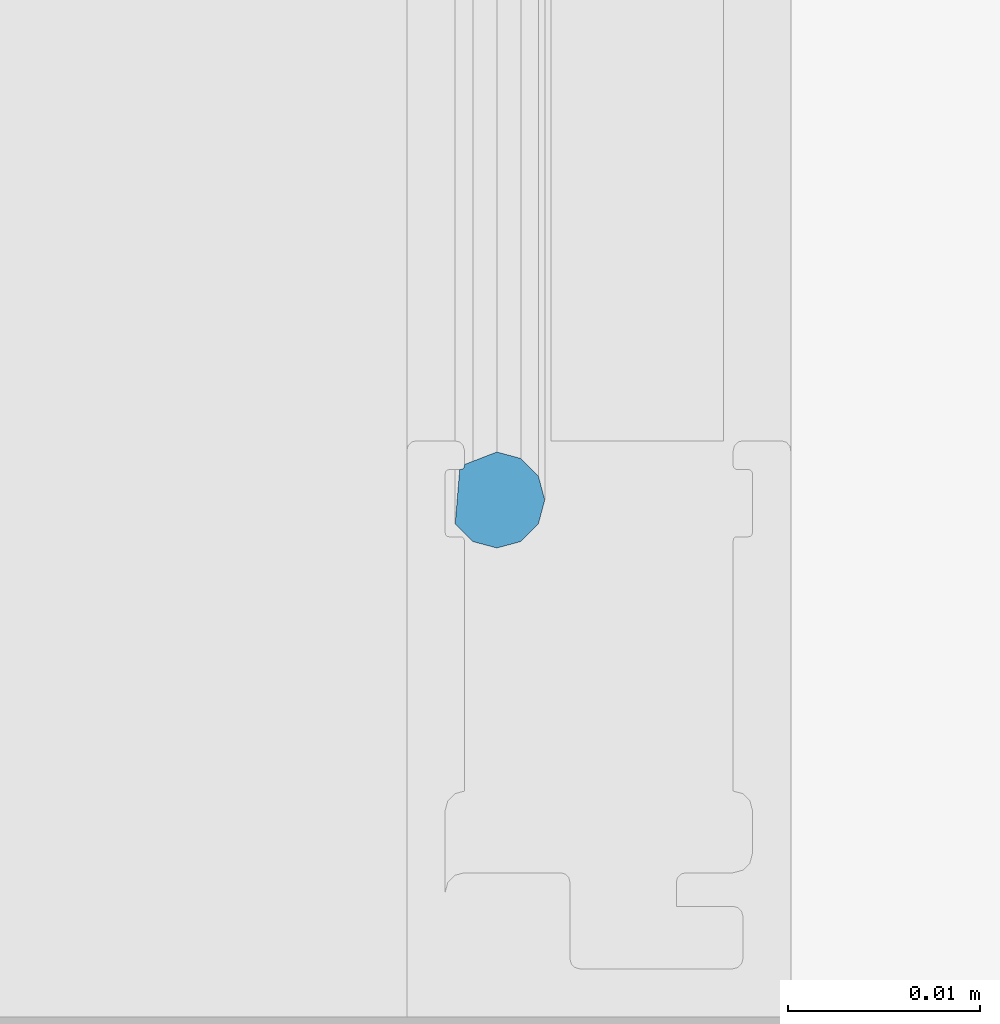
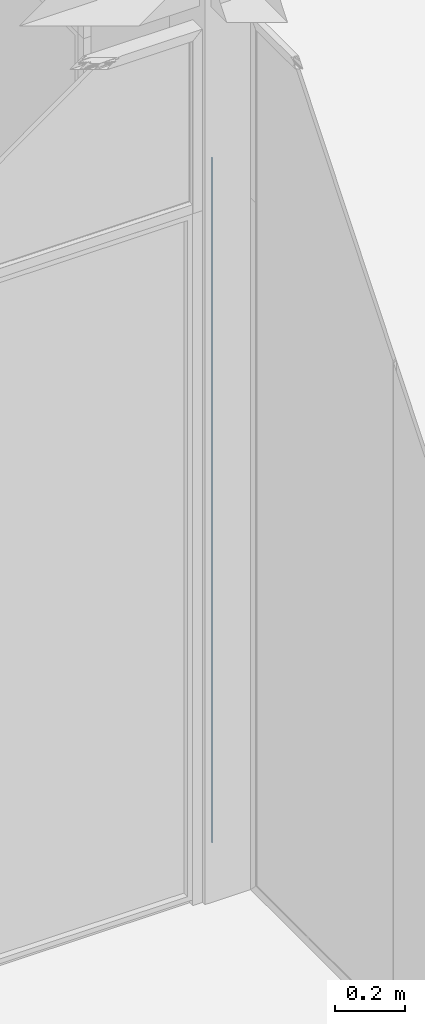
# One storey, part 67 of 387: 1 building element part, 2 elements without a shape of their own.
"""IFC2X3 building model written with IfcOpenShell, lengths in millimetres."""

from ifc_helpers import new_model, entity, si_unit, converted_unit, derived_unit, money_unit, direction, frame, origin_with_axes, place, context, subcontext, project, spatial, faceted_brep, source, transform, mapped, material, type_object, element, aggregate, save


model = new_model("IFC2X3")

# Units and contexts
model_context = context("Model", 3, precision=0.01, world=origin_with_axes(), true_north=direction((0.0, 1.0)))
body_context = subcontext(model_context, "Body", "Model", "MODEL_VIEW")
ifc_project = project(units=[si_unit("LENGTHUNIT", "METRE", prefix="MILLI"), si_unit("AREAUNIT", "SQUARE_METRE"), si_unit("VOLUMEUNIT", "CUBIC_METRE"), converted_unit("PLANEANGLEUNIT", "DEGREE", entity("IfcPlaneAngleMeasure", 0.0174532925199), si_unit("PLANEANGLEUNIT", "RADIAN"), dimensions=[0, 0, 0, 0, 0, 0, 0]), si_unit("SOLIDANGLEUNIT", "STERADIAN"), money_unit("EUR"), converted_unit("TIMEUNIT", "Year", entity("IfcTimeMeasure", 31556926.0), si_unit("TIMEUNIT", "SECOND"), dimensions=[0, 0, 1, 0, 0, 0, 0]), si_unit("MASSUNIT", "GRAM", prefix="KILO"), si_unit("THERMODYNAMICTEMPERATUREUNIT", "DEGREE_CELSIUS"), si_unit("LUMINOUSINTENSITYUNIT", "LUMEN"), si_unit("ENERGYUNIT", "JOULE", prefix="MEGA"), derived_unit("THERMALCONDUCTANCEUNIT", [(si_unit("POWERUNIT", "WATT"), 1), (si_unit("LENGTHUNIT", "METRE"), -1), (si_unit("THERMODYNAMICTEMPERATUREUNIT", "KELVIN"), -1)]), derived_unit("SPECIFICHEATCAPACITYUNIT", [(si_unit("ENERGYUNIT", "JOULE"), 1), (si_unit("MASSUNIT", "GRAM", prefix="KILO"), -1), (si_unit("THERMODYNAMICTEMPERATUREUNIT", "KELVIN"), -1)]), derived_unit("MASSDENSITYUNIT", [(si_unit("MASSUNIT", "GRAM", prefix="KILO"), 1), (si_unit("VOLUMEUNIT", "CUBIC_METRE"), -1)])], contexts=[model_context])

# Site, building, storey
site_placement = place(None, origin_with_axes())
site = spatial("IfcSite", under=ifc_project, at=site_placement, Name="Puškini 31, Narva", CompositionType="ELEMENT")
building_placement = place(site_placement, origin_with_axes())
building = spatial("IfcBuilding", under=site, at=building_placement, Name="Narva Riigigümnaasium", CompositionType="ELEMENT")
storey_placement = place(building_placement, frame((0.0, 0.0, 2640.0), z_axis=(0.0, 0.0, 1.0), x_axis=(1.0, 0.0, 0.0)))
storey = spatial("IfcBuildingStorey", under=building, at=storey_placement, Name="2.korrus +2.64", CompositionType="ELEMENT", Elevation=2640.0)

# Curtain wall, member, building element part
curtain_wall_type = type_object("IfcCurtainWallType", Name="Curtain Wall Type", PredefinedType="NOTDEFINED")
curtain_wall_placement = place(storey_placement, frame((28390.0000001, 180299.973357, -0.00013048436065), z_axis=(0.0, 0.0, 1.0), x_axis=(1.0, 0.0, 0.0)))
curtain_wall = element("IfcCurtainWall", 1, at=curtain_wall_placement, inside=storey, type_object=curtain_wall_type, Name="G-SKLF-17")
member_type = type_object("IfcMemberType", Name="30 x 10", PredefinedType="MULLION")
member_placement = place(curtain_wall_placement, frame((0.0, -1170.00131434, 0.0), z_axis=(0.0, -4.78079201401e-09, 1.0), x_axis=(0.0, 1.0, 4.78079201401e-09)))
member = element("IfcMember", 2, at=member_placement, type_object=member_type, Name="G-SKLF-65-raam", ObjectType="MULLION")
aggregate(curtain_wall, [member])
ifc_material = material(Name="Membraan - Veekindel")
shared_shape = source(origin_with_axes(), body_context, "Body", "Brep", [
    faceted_brep([(25.6641727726, 7.48000965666, 25.6641727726), (25.6641727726, 7.48000965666, 2400.00000922), (28.5, 7.24760028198, 2400.00000922), (28.5, 7.24760028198, 28.5), (24.7491092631, 6.56494614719, 24.7491092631), (24.7491092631, 6.56494614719, 2400.00000922), (24.4141727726, 5.31494614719, 2400.00000922), (24.7491092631, 4.06494614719, 2400.00000922), (25.6641727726, 3.14988263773, 2400.00000922), (26.9141727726, 2.81494614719, 2400.00000922), (28.1641727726, 3.14988263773, 2400.00000922), (29.079236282, 4.06494614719, 2400.00000922), (29.4141727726, 5.31494614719, 2400.00000922), (28.7609519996, 6.99999999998, 2400.00000922), (28.7, 6.99999999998, 2400.00000922), (28.6, 7.02679491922, 2400.00000922), (28.5267949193, 7.09999999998, 2400.00000922), (28.5, 7.19999999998, 2400.00000922), (28.5, 7.19999999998, 28.5), (28.5267949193, 7.09999999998, 28.5267949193), (28.6, 7.02679491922, 28.6), (28.7, 6.99999999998, 28.7), (28.7609519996, 6.99999999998, 28.7609519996), (29.4141727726, 5.31494614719, 29.4141727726), (29.079236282, 4.06494614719, 29.079236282), (28.1641727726, 3.14988263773, 28.1641727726), (26.9141727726, 2.81494614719, 26.9141727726), (25.6641727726, 3.14988263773, 25.6641727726), (24.7491092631, 4.06494614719, 24.7491092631), (24.4141727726, 5.31494614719, 24.4141727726)], [[[0, 1, 2, 3]], [[4, 5, 1, 0]], [[2, 1, 5, 6, 7, 8, 9, 10, 11, 12, 13, 14, 15, 16, 17]], [[3, 2, 17, 18]], [[3, 18, 19, 20, 21, 22, 23, 24, 25, 26, 27, 28, 29, 4, 0]], [[29, 6, 5, 4]], [[28, 7, 6, 29]], [[27, 8, 7, 28]], [[26, 9, 8, 27]], [[25, 10, 9, 26]], [[24, 11, 10, 25]], [[23, 12, 11, 24]], [[22, 13, 12, 23]], [[21, 14, 13, 22]], [[20, 15, 14, 21]], [[19, 16, 15, 20]], [[18, 17, 16, 19]]]),
])
building_element_part_placement = place(member_placement, origin_with_axes())
building_element_part = element("IfcBuildingElementPart", 3, at=building_element_part_placement, material=ifc_material, Name="Membraan - Veekindel", context=body_context, shape_type="MappedRepresentation", body=[
    mapped(shared_shape, transform((0.0, 0.0, 0.0))),
])
aggregate(member, [building_element_part])

save(model, "model.ifc")
